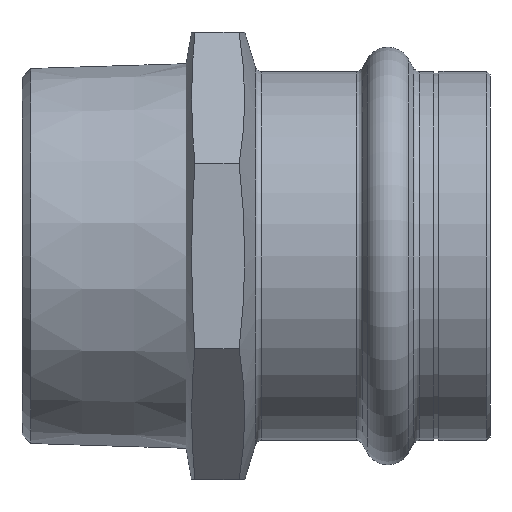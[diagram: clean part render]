
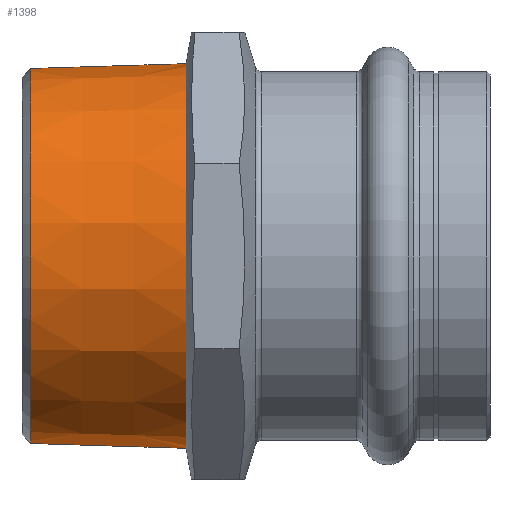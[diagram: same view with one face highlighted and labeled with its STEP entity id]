
A CAD part, left-side view. The second image highlights one B-rep face of the part: STEP entity #1398.
In plain terms, the highlighted conical face has half-angle 1.78 degrees and reference radius 30.112 mm.
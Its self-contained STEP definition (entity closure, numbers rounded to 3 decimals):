
#22 = VECTOR ( 'NONE', #1336, 1000. ) ;
#77 = LINE ( 'NONE', #1766, #22 ) ;
#81 = AXIS2_PLACEMENT_3D ( 'NONE', #1855, #980, #1102 ) ;
#191 = CARTESIAN_POINT ( 'NONE',  ( 0., 47.587, 30.112 ) ) ;
#194 = CARTESIAN_POINT ( 'NONE',  ( 0., 47.587, -30.112 ) ) ;
#204 = AXIS2_PLACEMENT_3D ( 'NONE', #1422, #1168, #1185 ) ;
#254 = VERTEX_POINT ( 'NONE', #363 ) ;
#269 = CONICAL_SURFACE ( 'NONE', #582, 30.112, 0.031 ) ;
#308 = FACE_OUTER_BOUND ( 'NONE', #1118, .T. ) ;
#321 = EDGE_CURVE ( 'NONE', #254, #662, #77, .T. ) ;
#335 = CARTESIAN_POINT ( 'NONE',  ( 0., 47.587, 0. ) ) ;
#363 = CARTESIAN_POINT ( 'NONE',  ( 0., 71.932, 29.355 ) ) ;
#517 = DIRECTION ( 'NONE',  ( 0., -1., 0. ) ) ;
#557 = EDGE_CURVE ( 'NONE', #662, #664, #1065, .T. ) ;
#582 = AXIS2_PLACEMENT_3D ( 'NONE', #335, #517, #704 ) ;
#662 = VERTEX_POINT ( 'NONE', #191 ) ;
#664 = VERTEX_POINT ( 'NONE', #194 ) ;
#704 = DIRECTION ( 'NONE',  ( 0., 0., -1. ) ) ;
#713 = ORIENTED_EDGE ( 'NONE', *, *, #557, .F. ) ;
#744 = CARTESIAN_POINT ( 'NONE',  ( 0., 47.587, -30.112 ) ) ;
#751 = CIRCLE ( 'NONE', #81, 29.355 ) ;
#760 = ORIENTED_EDGE ( 'NONE', *, *, #1487, .T. ) ;
#785 = EDGE_CURVE ( 'NONE', #254, #1217, #751, .T. ) ;
#980 = DIRECTION ( 'NONE',  ( 0., -1., 0. ) ) ;
#1057 = CARTESIAN_POINT ( 'NONE',  ( 0., 71.932, -29.355 ) ) ;
#1065 = CIRCLE ( 'NONE', #204, 30.112 ) ;
#1102 = DIRECTION ( 'NONE',  ( 0., 0., -1. ) ) ;
#1118 = EDGE_LOOP ( 'NONE', ( #1164, #1680, #760, #713 ) ) ;
#1164 = ORIENTED_EDGE ( 'NONE', *, *, #321, .F. ) ;
#1168 = DIRECTION ( 'NONE',  ( 0., -1., 0. ) ) ;
#1185 = DIRECTION ( 'NONE',  ( 0., 0., -1. ) ) ;
#1217 = VERTEX_POINT ( 'NONE', #1057 ) ;
#1296 = LINE ( 'NONE', #744, #1576 ) ;
#1336 = DIRECTION ( 'NONE',  ( 0., -1., 0.031 ) ) ;
#1398 = ADVANCED_FACE ( 'NONE', ( #308 ), #269, .T. ) ;
#1422 = CARTESIAN_POINT ( 'NONE',  ( 0., 47.587, 0. ) ) ;
#1487 = EDGE_CURVE ( 'NONE', #1217, #664, #1296, .T. ) ;
#1576 = VECTOR ( 'NONE', #1624, 1000. ) ;
#1624 = DIRECTION ( 'NONE',  ( 0., -1., -0.031 ) ) ;
#1680 = ORIENTED_EDGE ( 'NONE', *, *, #785, .T. ) ;
#1766 = CARTESIAN_POINT ( 'NONE',  ( 0., 47.587, 30.112 ) ) ;
#1855 = CARTESIAN_POINT ( 'NONE',  ( 0., 71.932, 0. ) ) ;
